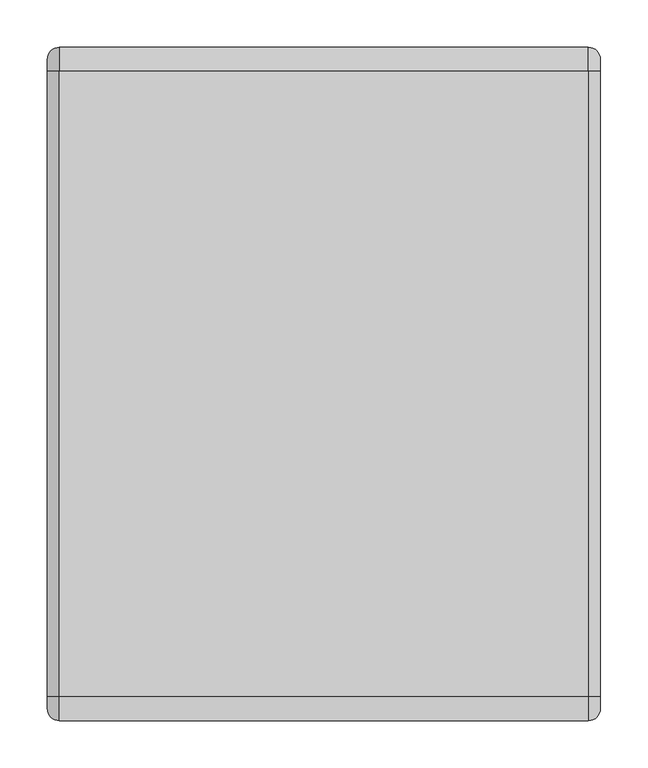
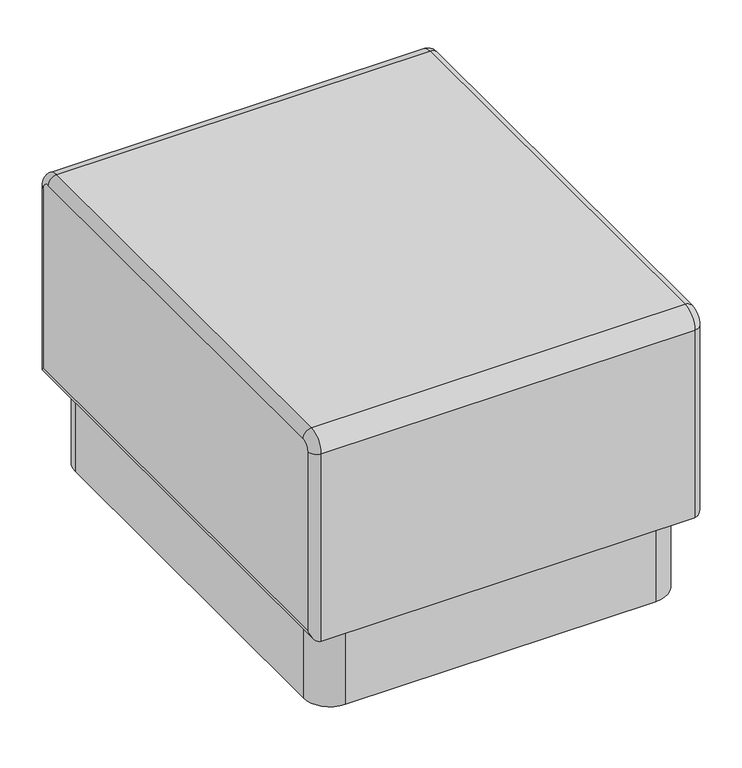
"""IFC4 building model written with IfcOpenShell, lengths in millimetres: furniture geometry, Stance_HC-Rosetta-Bench_Plinth_Base : RMB-SPB-BHP."""

from ifc_helpers import new_model, si_unit, point, frame, frame_2d, origin, origin_with_axes, place, context, project, spatial, polyline, circle_curve, ellipse_curve, trimmed, segment, composite_curve, outline, extrude, source, transform, mapped, element, save
from ifc_brep_helpers import plane_surface, cylinder_surface, revolved_surface, advanced_brep


def furniture_e8b378a2(model_context):
    return source(origin(), model_context, "Body", "SolidModel", [
        advanced_brep(
        [(571.5, -711.1999758, 431.8), (571.5, -685.7999758, 457.2), (12.7, -685.7999758, 457.2), (12.7, -711.1999758, 431.8), (12.7, -711.1999758, 134.88162), (571.5, -711.1999758, 134.88162), (12.7, 0.0, 134.88162), (571.5, 0.0, 134.88162), (12.7, 0.0, 431.8), (571.5, 0.0, 431.8), (571.5, -25.4, 457.2), (12.7, -25.4, 457.2), (584.2, -698.4999758, 431.8), (584.2, -685.7999758, 444.5), (0.0, -685.7999758, 444.5), (0.0, -698.4999758, 431.8), (584.2, -698.4999758, 147.58162), (0.0, -698.4999758, 147.58162), (584.2, -12.7, 147.58162), (0.0, -12.7, 147.58162), (584.2, -12.7, 431.8), (0.0, -12.7, 431.8), (584.2, -25.4, 444.5), (0.0, -25.4, 444.5)],
        [
            (0, 1, circle_curve(frame((571.5, -685.7999758, 431.8), z_axis=(-1.0, 0.0, 0.0), x_axis=(0.0, 0.0, 1.0)), 25.4)),
            (1, 2),
            (2, 3, circle_curve(frame((12.7, -685.7999758, 431.8), z_axis=(1.0, 0.0, 0.0), x_axis=(0.0, 0.0, 1.0)), 25.4)),
            (3, 0),
            (3, 4),
            (4, 5),
            (5, 0),
            (4, 6),
            (6, 7),
            (7, 5),
            (6, 8),
            (8, 9),
            (9, 7),
            (1, 10),
            (10, 11),
            (11, 2),
            (0, 12, circle_curve(frame((571.5, -698.4999758, 431.8), z_axis=(0.0, 0.0, 1.0), x_axis=(0.0, 1.0, 0.0)), 12.7)),
            (12, 13, circle_curve(frame((584.2, -685.7999758, 431.8), z_axis=(-1.0, 0.0, 0.0), x_axis=(0.0, 0.0, 1.0)), 12.7)),
            (13, 1, circle_curve(frame((571.5, -685.7999758, 444.5), z_axis=(0.0, -1.0, 0.0), x_axis=(0.0, 0.0, -1.0)), 12.7)),
            (2, 14, circle_curve(frame((12.7, -685.7999758, 444.5), z_axis=(0.0, -1.0, 0.0), x_axis=(0.0, 0.0, -1.0)), 12.7)),
            (14, 15, circle_curve(frame((0.0, -685.7999758, 431.8), z_axis=(1.0, 0.0, 0.0), x_axis=(0.0, 0.0, 1.0)), 12.7)),
            (15, 3, circle_curve(frame((12.7, -698.4999758, 431.8), z_axis=(0.0, 0.0, 1.0), x_axis=(0.0, 1.0, 0.0)), 12.7)),
            (5, 16, ellipse_curve(frame((571.5, -698.4999758, 147.58162), z_axis=(0.0, -0.7071067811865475, 0.7071067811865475), x_axis=(0.0, 0.7071067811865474, 0.7071067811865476)), 17.9605122, 12.7)),
            (16, 12),
            (15, 17),
            (17, 4, ellipse_curve(frame((12.7, -698.4999758, 147.58162), z_axis=(0.0, -0.7071067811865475, 0.7071067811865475), x_axis=(0.0, 0.7071067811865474, 0.7071067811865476)), 17.9605122, 12.7)),
            (7, 18, ellipse_curve(frame((571.5, -12.7, 147.58162), z_axis=(0.0, -0.7071067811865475, -0.7071067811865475), x_axis=(0.0, -0.7071067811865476, 0.7071067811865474)), 17.9605122, 12.7)),
            (18, 16),
            (17, 19),
            (19, 6, ellipse_curve(frame((12.7, -12.7, 147.58162), z_axis=(0.0, -0.7071067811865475, -0.7071067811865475), x_axis=(0.0, -0.7071067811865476, 0.7071067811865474)), 17.9605122, 12.7)),
            (9, 20, circle_curve(frame((571.5, -12.7, 431.8), z_axis=(0.0, 0.0, -1.0), x_axis=(0.0, -1.0, 0.0)), 12.7)),
            (20, 18),
            (19, 21),
            (21, 8, circle_curve(frame((12.7, -12.7, 431.8), z_axis=(0.0, 0.0, -1.0), x_axis=(0.0, -1.0, 0.0)), 12.7)),
            (13, 22),
            (22, 10, circle_curve(frame((571.5, -25.4, 444.5), z_axis=(0.0, -1.0, 0.0), x_axis=(0.0, 0.0, -1.0)), 12.7)),
            (11, 23, circle_curve(frame((12.7, -25.4, 444.5), z_axis=(0.0, -1.0, 0.0), x_axis=(0.0, 0.0, -1.0)), 12.7)),
            (23, 14),
            (9, 10, circle_curve(frame((571.5, -25.4, 431.8), z_axis=(1.0, 0.0, 0.0), x_axis=(0.0, 1.0, 0.0)), 25.4)),
            (22, 20, circle_curve(frame((584.2, -25.4, 431.8), z_axis=(-1.0, 0.0, 0.0), x_axis=(0.0, 1.0, 0.0)), 12.7)),
            (23, 21, circle_curve(frame((0.0, -25.4, 431.8), z_axis=(-1.0, 0.0, 0.0), x_axis=(0.0, 1.0, 0.0)), 12.7)),
            (11, 8, circle_curve(frame((12.7, -25.4, 431.8), z_axis=(-1.0, 0.0, 0.0), x_axis=(0.0, 1.0, 0.0)), 25.4)),
        ],
        [
            cylinder_surface(frame((0.0, -685.7999758, 431.8), z_axis=(1.0, 0.0, 0.0), x_axis=(0.0, 0.0, 1.0)), 25.4),
            plane_surface(frame((12.7, -711.1999758, 431.8), z_axis=(0.0, -1.0, 0.0), x_axis=(0.0, 0.0, -1.0))),
            plane_surface(frame((12.7, -711.1999758, 134.88162), z_axis=(0.0, 0.0, -1.0), x_axis=(0.0, 1.0, 0.0))),
            plane_surface(frame((12.7, 0.0, 134.88162), z_axis=(0.0, 1.0, 0.0), x_axis=(0.0, 0.0, 1.0))),
            plane_surface(frame((12.7, -25.4, 457.2), z_axis=(0.0, 0.0, 1.0), x_axis=(0.0, -1.0, 0.0))),
            revolved_surface(trimmed(ellipse_curve(frame((571.5, -685.7999758, 444.5), z_axis=(0.0, 1.0, 0.0), x_axis=(0.0, 0.0, -1.0)), 12.7, 12.7), [point((571.5, -685.7999758, 457.2))], [point((584.2, -685.7999758, 444.5))], True, "CARTESIAN"), (0.0, -685.7999758, 431.8), (1.0, 0.0, 0.0)),
            revolved_surface(trimmed(ellipse_curve(frame((12.7, -685.7999758, 444.5), z_axis=(0.0, 1.0, 0.0), x_axis=(0.0, 0.0, -1.0)), 12.7, 12.7), [point((0.0, -685.7999758, 444.5))], [point((12.7, -685.7999758, 457.2))], True, "CARTESIAN"), (0.0, -685.7999758, 431.8), (1.0, 0.0, 0.0)),
            cylinder_surface(frame((571.5, -698.4999758, 431.8), z_axis=(0.0, 0.0, 1.0), x_axis=(0.0, 1.0, 0.0)), 12.7),
            cylinder_surface(frame((12.7, -698.4999758, 431.8), z_axis=(0.0, 0.0, 1.0), x_axis=(0.0, 1.0, 0.0)), 12.7),
            cylinder_surface(frame((571.5, -711.1999758, 147.58162), z_axis=(0.0, -1.0, 0.0), x_axis=(0.0, 0.0, 1.0)), 12.7),
            cylinder_surface(frame((12.7, -711.1999758, 147.58162), z_axis=(0.0, -1.0, 0.0), x_axis=(0.0, 0.0, 1.0)), 12.7),
            cylinder_surface(frame((571.5, -12.7, 134.88162), z_axis=(0.0, 0.0, -1.0), x_axis=(0.0, -1.0, 0.0)), 12.7),
            cylinder_surface(frame((12.7, -12.7, 134.88162), z_axis=(0.0, 0.0, -1.0), x_axis=(0.0, -1.0, 0.0)), 12.7),
            cylinder_surface(frame((571.5, -25.4, 444.5), z_axis=(0.0, 1.0, 0.0), x_axis=(0.0, 0.0, -1.0)), 12.7),
            cylinder_surface(frame((12.7, -25.4, 444.5), z_axis=(0.0, 1.0, 0.0), x_axis=(0.0, 0.0, -1.0)), 12.7),
            revolved_surface(trimmed(ellipse_curve(frame((571.5, -12.7, 431.8), z_axis=(0.0, 0.0, -1.0), x_axis=(0.0, -1.0, 0.0)), 12.7, 12.7), [point((571.5, 0.0, 431.8))], [point((584.2, -12.7, 431.8))], True, "CARTESIAN"), (0.0, -25.4, 431.8), (1.0, 0.0, 0.0)),
            plane_surface(frame((584.2, -25.4, 431.8), z_axis=(1.0, 0.0, 0.0), x_axis=(0.0, 1.0, 0.0))),
            plane_surface(frame((0.0, -25.4, 431.8), z_axis=(-1.0, 0.0, 0.0), x_axis=(0.0, 1.0, 0.0))),
            revolved_surface(trimmed(ellipse_curve(frame((12.7, -12.7, 431.8), z_axis=(0.0, 0.0, -1.0), x_axis=(0.0, -1.0, 0.0)), 12.7, 12.7), [point((0.0, -12.7, 431.8))], [point((12.7, 0.0, 431.8))], True, "CARTESIAN"), (0.0, -25.4, 431.8), (1.0, 0.0, 0.0)),
            cylinder_surface(frame((0.0, -25.4, 431.8), z_axis=(1.0, 0.0, 0.0), x_axis=(0.0, 1.0, 0.0)), 25.4),
        ],
        [
            (0, [[1, 2, 3, 4]]),
            (1, [[-4, 5, 6, 7]]),
            (2, [[-6, 8, 9, 10]]),
            (3, [[-9, 11, 12, 13]]),
            (4, [[-2, 14, 15, 16]]),
            (5, [[-1, 17, 18, 19]]),
            (6, [[-3, 20, 21, 22]]),
            (7, [[-7, 23, 24, -17]]),
            (8, [[-5, -22, 25, 26]]),
            (9, [[-10, 27, 28, -23]]),
            (10, [[-8, -26, 29, 30]]),
            (11, [[-13, 31, 32, -27]]),
            (12, [[-11, -30, 33, 34]]),
            (13, [[-14, -19, 35, 36]]),
            (14, [[-16, 37, 38, -20]]),
            (15, [[-31, 39, -36, 40]]),
            (16, [[-18, -24, -28, -32, -40, -35]]),
            (17, [[-21, -38, 41, -33, -29, -25]]),
            (18, [[-34, -41, -37, 42]]),
            (19, [[-12, -42, -15, -39]]),
        ],
    ),
        extrude(outline(composite_curve([segment(trimmed(circle_curve(frame_2d((54.0078674, -657.1680567)), 11.90625), [point((54.0078674, -669.0743067))], [point((54.0078674, -645.2618067))], False, "CARTESIAN"), True, "CONTINUOUS"), segment(trimmed(circle_curve(frame_2d((54.0078674, -657.1680567)), 11.90625), [point((54.0078674, -645.2618067))], [point((54.0078674, -669.0743067))], False, "CARTESIAN"), True, "CONTINUOUS")], self_intersect=False)), origin_with_axes(), (0.0, 0.0, 1.0), 6.3627),
        extrude(outline(composite_curve([segment(trimmed(circle_curve(frame_2d((530.1921326, -657.1680567)), 11.90625), [point((530.1921326, -669.0743067))], [point((530.1921326, -645.2618067))], False, "CARTESIAN"), True, "CONTINUOUS"), segment(trimmed(circle_curve(frame_2d((530.1921326, -657.1680567)), 11.90625), [point((530.1921326, -645.2618067))], [point((530.1921326, -669.0743067))], False, "CARTESIAN"), True, "CONTINUOUS")], self_intersect=False)), origin_with_axes(), (0.0, 0.0, 1.0), 6.3627),
        extrude(outline(composite_curve([segment(trimmed(circle_curve(frame_2d((54.0078674, -54.0319433)), 11.90625), [point((54.0078674, -65.9381933))], [point((54.0078674, -42.1256933))], False, "CARTESIAN"), True, "CONTINUOUS"), segment(trimmed(circle_curve(frame_2d((54.0078674, -54.0319433)), 11.90625), [point((54.0078674, -42.1256933))], [point((54.0078674, -65.9381933))], False, "CARTESIAN"), True, "CONTINUOUS")], self_intersect=False)), origin_with_axes(), (0.0, 0.0, 1.0), 6.3627),
        extrude(outline(composite_curve([segment(trimmed(circle_curve(frame_2d((530.1921326, -54.0319433)), 11.90625), [point((530.1921326, -65.9381933))], [point((530.1921326, -42.1256933))], False, "CARTESIAN"), True, "CONTINUOUS"), segment(trimmed(circle_curve(frame_2d((530.1921326, -54.0319433)), 11.90625), [point((530.1921326, -42.1256933))], [point((530.1921326, -65.9381933))], False, "CARTESIAN"), True, "CONTINUOUS")], self_intersect=False)), origin_with_axes(), (0.0, 0.0, 1.0), 6.3627),
        extrude(outline(composite_curve([segment(trimmed(circle_curve(frame_2d((524.2875, -59.9125)), 39.6875), [point((524.2875, -20.225))], [point((563.975, -59.9125))], False, "CARTESIAN"), True, "CONTINUOUS"), segment(polyline([(563.975, -59.9125), (563.975, -651.2875)]), True, "CONTINUOUS"), segment(trimmed(circle_curve(frame_2d((524.2875, -651.2875)), 39.6875), [point((563.975, -651.2875))], [point((524.2875, -690.975))], False, "CARTESIAN"), True, "CONTINUOUS"), segment(polyline([(524.2875, -690.975), (59.9125, -690.975)]), True, "CONTINUOUS"), segment(trimmed(circle_curve(frame_2d((59.9125, -651.2875)), 39.6875), [point((59.9125, -690.975))], [point((20.225, -651.2875))], False, "CARTESIAN"), True, "CONTINUOUS"), segment(polyline([(20.225, -651.2875), (20.225, -59.9125)]), True, "CONTINUOUS"), segment(trimmed(circle_curve(frame_2d((59.9125, -59.9125)), 39.6875), [point((20.225, -59.9125))], [point((59.9125, -20.225))], False, "CARTESIAN"), True, "CONTINUOUS"), segment(polyline([(59.9125, -20.225), (524.2875, -20.225)]), True, "CONTINUOUS")], self_intersect=False)), frame((0.0, 0.0, 6.3627), z_axis=(0.0, 0.0, 1.0), x_axis=(1.0, 0.0, 0.0)), (0.0, 0.0, 1.0), 128.51892),
    ])


if __name__ == "__main__":
    model = new_model("IFC4")
    model_context = context("Model", 3, world=origin())
    ifc_project = project(units=[si_unit("LENGTHUNIT", "METRE", prefix="MILLI")], contexts=[model_context])
    site = spatial("IfcSite", under=ifc_project)
    building = spatial("IfcBuilding", under=site)
    placement = place(None, origin())
    furniture_shape = furniture_e8b378a2(model_context)
    element("IfcFurniture", 1, ObjectType="Stance_HC-Rosetta-Bench_Plinth_Base : RMB-SPB-BHP", at=placement, inside=building, context=model_context, shape_type="MappedRepresentation", body=[
        mapped(furniture_shape, transform((0.0, 0.0, 0.0), x_axis=(1.0, 0.0, 0.0), y_axis=(0.0, 1.0, 0.0), z_axis=(0.0, 0.0, 1.0))),
    ])
    save(model, "model.ifc")
